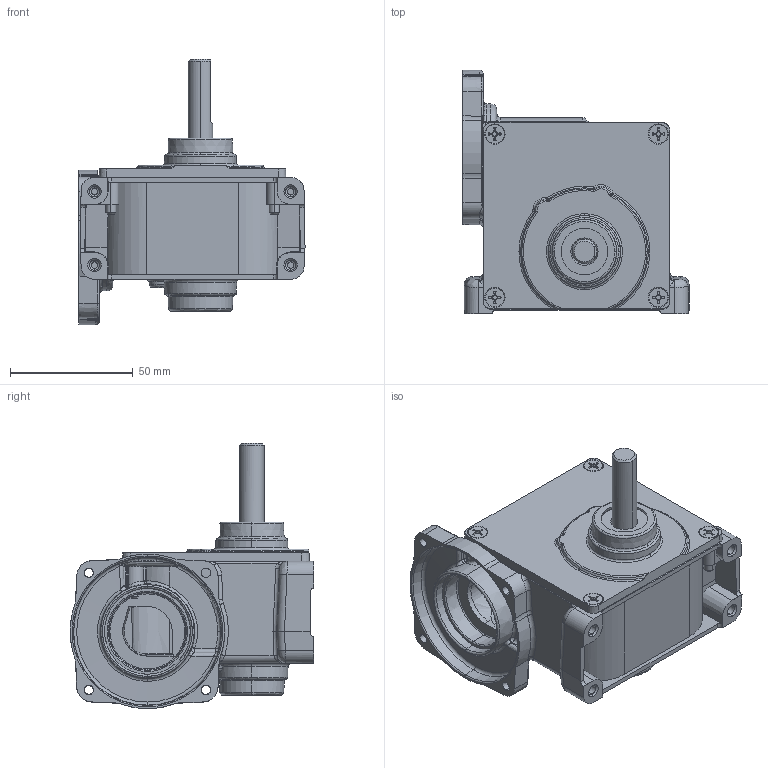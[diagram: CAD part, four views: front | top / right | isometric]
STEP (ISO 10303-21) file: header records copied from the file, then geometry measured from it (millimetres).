
FILE_DESCRIPTION (( 'STEP AP214' ), '1' );
FILE_NAME ('SWS_render model.STEP', '2023-10-24T09:22:54', ( '' ), ( '' ), 'SwSTEP 2.0', 'SolidWorks 2023', '' );
FILE_SCHEMA (( 'AUTOMOTIVE_DESIGN' ));
Length unit declared in the file: millimetre
Products named in the file (1): SWS_render model
Bounding box: 92.24 x 99.52 x 108.29 mm (x, y, z)
Volume: 102896.3 mm3; surface area: 75682.4 mm2
Topology: 19 solids, 19 shells, 1236 faces, 3049 edges, 1823 vertices
Faces by surface type: bspline 352, cone 268, plane 237, cylinder 211, torus 120, sphere 48
Entity records: 74414 total; most frequent: CARTESIAN_POINT 34265, ORIENTED_EDGE 5960, DIRECTION 4851, EDGE_CURVE 2980, AXIS2_PLACEMENT_3D 2000, VERTEX_POINT 1822, EDGE_LOOP 1302, UNCERTAINTY_MEASURE_WITH_UNIT 1256
